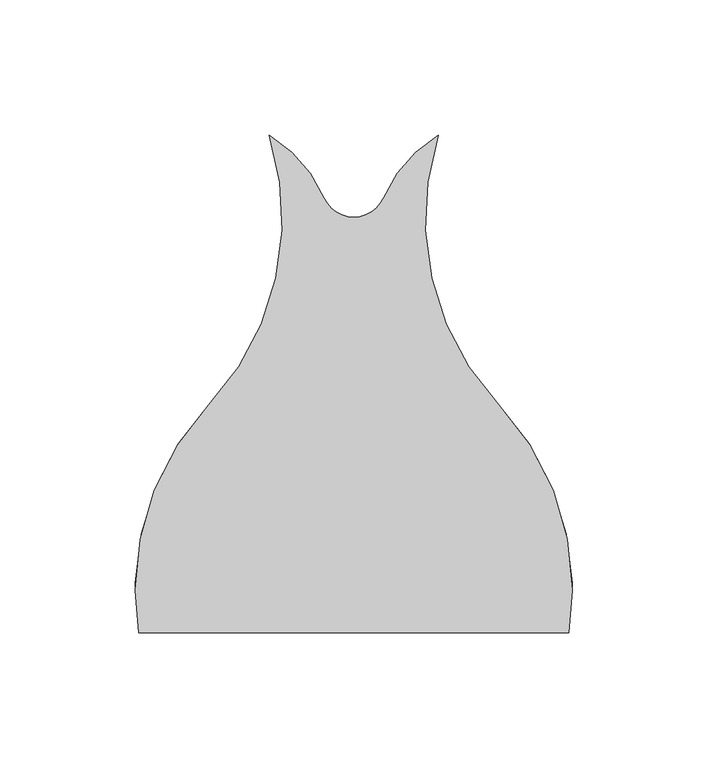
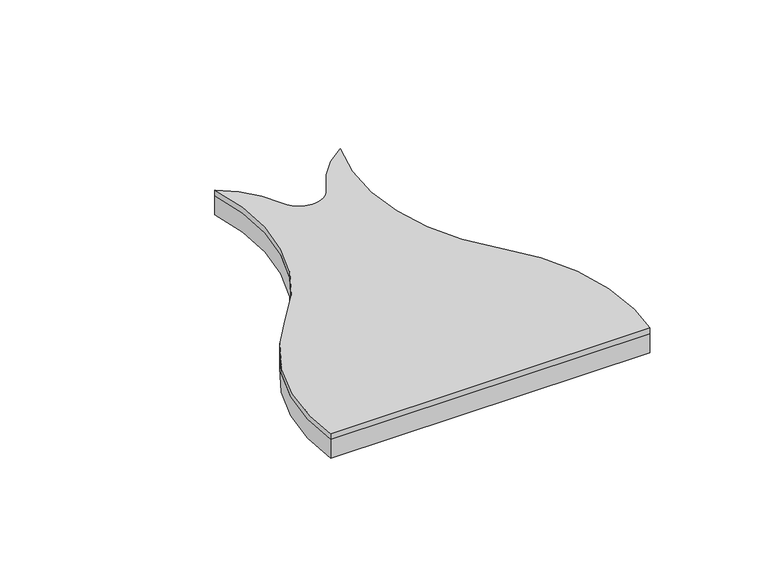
"""IFC4 building model written with IfcOpenShell, lengths in millimetres: proxy geometry, FilzFelt_Fish_Block : Fish Block."""

from ifc_helpers import new_model, si_unit, frame, origin, place, context, project, spatial, polyline, circle_curve, source, transform, mapped, element, save
from ifc_brep_helpers import plane_surface, cylinder_surface, revolved_surface, advanced_brep


def specialty_equipment_a03a52e0(model_context):
    return source(origin(), model_context, "Body", "AdvancedBrep", [
        advanced_brep(
        [(53.5486457, 68.6120133, 10.0210937), (79.4843468, -15.6533306, 10.0210937), (-79.4843468, -15.6533306, 10.0210937), (-53.5486457, 68.6120133, 10.0210937), (-31.2619065, 168.1141956, 10.0210937), (-11.0103348, 145.0347036, 10.0210937), (11.0103348, 145.0347036, 10.0210937), (31.2619065, 168.1141956, 10.0210937), (-53.5486457, 68.6120133, 12.9976563), (-80.7142226, 0.0, 12.9976563), (-79.4843468, -15.6533306, 12.9976563), (79.4843468, -15.6533306, 12.9976563), (80.7142226, 0.0, 12.9976563), (53.5486457, 68.6120133, 12.9976563), (31.2619065, 168.1141956, 12.9976563), (11.0103348, 145.0347036, 12.9976563), (-11.0103348, 145.0347036, 12.9976563), (-31.2619065, 168.1141956, 12.9976563)],
        [
            (0, 1, circle_curve(frame((-19.5151403, 0.0, 10.0210937), z_axis=(0.0, 0.0, -1.0), x_axis=(-1.0, 0.0, 0.0)), 100.2293629)),
            (1, 2),
            (2, 3, circle_curve(frame((19.5151403, 0.0, 10.0210937), z_axis=(0.0, 0.0, -1.0), x_axis=(-1.0, 0.0, 0.0)), 100.2293629)),
            (3, 4, circle_curve(frame((-126.6124317, 137.2240266, 10.0210937), z_axis=(0.0, 0.0, 1.0), x_axis=(-1.0, 0.0, 0.0)), 100.2293629)),
            (4, 5, circle_curve(frame((-57.9263497, 124.2921115, 10.0210937), z_axis=(0.0, 0.0, -1.0), x_axis=(-1.0, 0.0, 0.0)), 51.2968574)),
            (5, 6, circle_curve(frame((0.0, 149.9026124, 10.0210937), z_axis=(0.0, 0.0, 1.0), x_axis=(-1.0, 0.0, 0.0)), 12.0384388)),
            (6, 7, circle_curve(frame((57.9263497, 124.2921115, 10.0210937), z_axis=(0.0, 0.0, -1.0), x_axis=(-1.0, 0.0, 0.0)), 51.2968574)),
            (7, 0, circle_curve(frame((126.6124317, 137.2240266, 10.0210937), z_axis=(0.0, 0.0, 1.0), x_axis=(-1.0, 0.0, 0.0)), 100.2293629)),
            (8, 9, circle_curve(frame((19.5151403, 0.0, 12.9976563), z_axis=(0.0, 0.0, 1.0), x_axis=(-1.0, 0.0, 0.0)), 100.2293629)),
            (9, 10, circle_curve(frame((19.5151403, 0.0, 12.9976563), z_axis=(0.0, 0.0, 1.0), x_axis=(-1.0, 0.0, 0.0)), 100.2293629)),
            (10, 11),
            (11, 12, circle_curve(frame((-19.5151403, 0.0, 12.9976563), z_axis=(0.0, 0.0, 1.0), x_axis=(-1.0, 0.0, 0.0)), 100.2293629)),
            (12, 13, circle_curve(frame((-19.5151403, 0.0, 12.9976563), z_axis=(0.0, 0.0, 1.0), x_axis=(-1.0, 0.0, 0.0)), 100.2293629)),
            (13, 14, circle_curve(frame((126.6124317, 137.2240266, 12.9976563), z_axis=(0.0, 0.0, -1.0), x_axis=(-1.0, 0.0, 0.0)), 100.2293629)),
            (14, 15, circle_curve(frame((57.9263497, 124.2921115, 12.9976563), z_axis=(0.0, 0.0, 1.0), x_axis=(-1.0, 0.0, 0.0)), 51.2968574)),
            (15, 16, circle_curve(frame((0.0, 149.9026124, 12.9976563), z_axis=(0.0, 0.0, -1.0), x_axis=(-1.0, 0.0, 0.0)), 12.0384388)),
            (16, 17, circle_curve(frame((-57.9263497, 124.2921115, 12.9976563), z_axis=(0.0, 0.0, 1.0), x_axis=(-1.0, 0.0, 0.0)), 51.2968574)),
            (17, 8, circle_curve(frame((-126.6124317, 137.2240266, 12.9976563), z_axis=(0.0, 0.0, -1.0), x_axis=(-1.0, 0.0, 0.0)), 100.2293629)),
            (11, 1),
            (0, 13),
            (7, 14),
            (6, 15),
            (5, 16),
            (4, 17),
            (3, 8),
            (2, 10),
        ],
        [
            plane_surface(frame((0.0, 0.0, 10.0210937), z_axis=(0.0, 0.0, -1.0), x_axis=(0.0, 1.0, 0.0))),
            plane_surface(frame((0.0, 0.0, 12.9976563), z_axis=(0.0, 0.0, 1.0), x_axis=(0.0, 1.0, 0.0))),
            cylinder_surface(frame((-19.5151403, 0.0, 10.0210937), z_axis=(0.0, 0.0, -1.0), x_axis=(-1.0, 0.0, 0.0)), 100.2293629),
            revolved_surface(polyline([(26.383068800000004, 137.2240266, 12.9976563), (26.383068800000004, 137.2240266, 10.0210937)]), (126.6124317, 137.2240266, 10.0210937), (0.0, 0.0, 1.0)),
            cylinder_surface(frame((57.9263497, 124.2921115, 10.0210937), z_axis=(0.0, 0.0, -1.0), x_axis=(-1.0, 0.0, 0.0)), 51.2968574),
            revolved_surface(polyline([(-12.0384388, 149.9026124, 12.9976563), (-12.0384388, 149.9026124, 10.0210937)]), (0.0, 149.9026124, 10.0210937), (0.0, 0.0, 1.0)),
            cylinder_surface(frame((-57.9263497, 124.2921115, 10.0210937), z_axis=(0.0, 0.0, -1.0), x_axis=(-1.0, 0.0, 0.0)), 51.2968574),
            revolved_surface(polyline([(-226.84179460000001, 137.2240266, 12.9976563), (-226.84179460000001, 137.2240266, 10.0210937)]), (-126.6124317, 137.2240266, 10.0210937), (0.0, 0.0, 1.0)),
            cylinder_surface(frame((19.5151403, 0.0, 10.0210937), z_axis=(0.0, 0.0, -1.0), x_axis=(-1.0, 0.0, 0.0)), 100.2293629),
            plane_surface(frame((-112.4642226, -15.6533306, 12.9976562), z_axis=(0.0, -1.0, 0.0), x_axis=(-1.0, 0.0, 0.0))),
        ],
        [
            (0, [[1, 2, 3, 4, 5, 6, 7, 8]]),
            (1, [[9, 10, 11, 12, 13, 14, 15, 16, 17, 18]]),
            (2, [[-13, -12, 19, -1, 20]]),
            (3, [[21, -14, -20, -8]]),
            (4, [[22, -15, -21, -7]]),
            (5, [[23, -16, -22, -6]]),
            (6, [[24, -17, -23, -5]]),
            (7, [[25, -18, -24, -4]]),
            (8, [[-3, 26, -10, -9, -25]]),
            (9, [[-19, -11, -26, -2]]),
        ],
    ),
        advanced_brep(
        [(31.2619065, 168.1141956, 0.0), (53.5486457, 68.6120133, 0.0), (80.7142226, 0.0, 0.0), (79.4843468, -15.6533306, 0.0), (-79.4843468, -15.6533306, 0.0), (-80.7142226, 0.0, 0.0), (-53.5486457, 68.6120133, 0.0), (-31.2619065, 168.1141956, 0.0), (-11.0103348, 145.0347036, 0.0), (11.0103348, 145.0347036, 0.0), (31.2619065, 168.1141956, 10.0210937), (11.0103348, 145.0347036, 10.0210937), (-11.0103348, 145.0347036, 10.0210937), (-31.2619065, 168.1141956, 10.0210937), (-53.5486457, 68.6120133, 10.0210937), (-79.4843468, -15.6533306, 10.0210937), (79.4843468, -15.6533306, 10.0210937), (53.5486457, 68.6120133, 10.0210937)],
        [
            (0, 1, circle_curve(frame((126.6124317, 137.2240266, 0.0), z_axis=(0.0, 0.0, 1.0), x_axis=(-1.0, 0.0, 0.0)), 100.2293629)),
            (1, 2, circle_curve(frame((-19.5151403, 0.0, 0.0), z_axis=(0.0, 0.0, -1.0), x_axis=(-1.0, 0.0, 0.0)), 100.2293629)),
            (2, 3, circle_curve(frame((-19.5151403, 0.0, 0.0), z_axis=(0.0, 0.0, -1.0), x_axis=(-1.0, 0.0, 0.0)), 100.2293629)),
            (3, 4),
            (4, 5, circle_curve(frame((19.5151403, 0.0, 0.0), z_axis=(0.0, 0.0, -1.0), x_axis=(-1.0, 0.0, 0.0)), 100.2293629)),
            (5, 6, circle_curve(frame((19.5151403, 0.0, 0.0), z_axis=(0.0, 0.0, -1.0), x_axis=(-1.0, 0.0, 0.0)), 100.2293629)),
            (6, 7, circle_curve(frame((-126.6124317, 137.2240266, 0.0), z_axis=(0.0, 0.0, 1.0), x_axis=(-1.0, 0.0, 0.0)), 100.2293629)),
            (7, 8, circle_curve(frame((-57.9263497, 124.2921115, 0.0), z_axis=(0.0, 0.0, -1.0), x_axis=(-1.0, 0.0, 0.0)), 51.2968574)),
            (8, 9, circle_curve(frame((0.0, 149.9026124, 0.0), z_axis=(0.0, 0.0, 1.0), x_axis=(-1.0, 0.0, 0.0)), 12.0384388)),
            (9, 0, circle_curve(frame((57.9263497, 124.2921115, 0.0), z_axis=(0.0, 0.0, -1.0), x_axis=(-1.0, 0.0, 0.0)), 51.2968574)),
            (10, 11, circle_curve(frame((57.9263497, 124.2921115, 10.0210937), z_axis=(0.0, 0.0, 1.0), x_axis=(-1.0, 0.0, 0.0)), 51.2968574)),
            (11, 12, circle_curve(frame((0.0, 149.9026124, 10.0210937), z_axis=(0.0, 0.0, -1.0), x_axis=(-1.0, 0.0, 0.0)), 12.0384388)),
            (12, 13, circle_curve(frame((-57.9263497, 124.2921115, 10.0210937), z_axis=(0.0, 0.0, 1.0), x_axis=(-1.0, 0.0, 0.0)), 51.2968574)),
            (13, 14, circle_curve(frame((-126.6124317, 137.2240266, 10.0210937), z_axis=(0.0, 0.0, -1.0), x_axis=(-1.0, 0.0, 0.0)), 100.2293629)),
            (14, 15, circle_curve(frame((19.5151403, 0.0, 10.0210937), z_axis=(0.0, 0.0, 1.0), x_axis=(-1.0, 0.0, 0.0)), 100.2293629)),
            (15, 16),
            (16, 17, circle_curve(frame((-19.5151403, 0.0, 10.0210937), z_axis=(0.0, 0.0, 1.0), x_axis=(-1.0, 0.0, 0.0)), 100.2293629)),
            (17, 10, circle_curve(frame((126.6124317, 137.2240266, 10.0210937), z_axis=(0.0, 0.0, -1.0), x_axis=(-1.0, 0.0, 0.0)), 100.2293629)),
            (9, 11),
            (10, 0),
            (8, 12),
            (7, 13),
            (6, 14),
            (4, 15),
            (16, 3),
            (1, 17),
        ],
        [
            plane_surface(frame((0.0, 0.0, 0.0), z_axis=(0.0, 0.0, -1.0), x_axis=(0.0, 1.0, 0.0))),
            plane_surface(frame((0.0, 0.0, 10.0210937), z_axis=(0.0, 0.0, 1.0), x_axis=(0.0, 1.0, 0.0))),
            cylinder_surface(frame((57.9263497, 124.2921115, 0.0), z_axis=(0.0, 0.0, -1.0), x_axis=(-1.0, 0.0, 0.0)), 51.2968574),
            revolved_surface(polyline([(-12.0384388, 149.9026124, 10.0210937), (-12.0384388, 149.9026124, 0.0)]), (0.0, 149.9026124, 0.0), (0.0, 0.0, 1.0)),
            cylinder_surface(frame((-57.9263497, 124.2921115, 0.0), z_axis=(0.0, 0.0, -1.0), x_axis=(-1.0, 0.0, 0.0)), 51.2968574),
            revolved_surface(polyline([(-226.84179460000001, 137.2240266, 10.0210937), (-226.84179460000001, 137.2240266, 0.0)]), (-126.6124317, 137.2240266, 0.0), (0.0, 0.0, 1.0)),
            cylinder_surface(frame((19.5151403, 0.0, 0.0), z_axis=(0.0, 0.0, -1.0), x_axis=(-1.0, 0.0, 0.0)), 100.2293629),
            cylinder_surface(frame((-19.5151403, 0.0, 0.0), z_axis=(0.0, 0.0, -1.0), x_axis=(-1.0, 0.0, 0.0)), 100.2293629),
            revolved_surface(polyline([(26.383068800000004, 137.2240266, 10.0210937), (26.383068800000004, 137.2240266, 0.0)]), (126.6124317, 137.2240266, 0.0), (0.0, 0.0, 1.0)),
            plane_surface(frame((-112.4642226, -15.6533306, 12.9976562), z_axis=(0.0, -1.0, 0.0), x_axis=(-1.0, 0.0, 0.0))),
        ],
        [
            (0, [[1, 2, 3, 4, 5, 6, 7, 8, 9, 10]]),
            (1, [[11, 12, 13, 14, 15, 16, 17, 18]]),
            (2, [[19, -11, 20, -10]]),
            (3, [[21, -12, -19, -9]]),
            (4, [[22, -13, -21, -8]]),
            (5, [[23, -14, -22, -7]]),
            (6, [[-6, -5, 24, -15, -23]]),
            (7, [[-17, 25, -3, -2, 26]]),
            (8, [[-20, -18, -26, -1]]),
            (9, [[-25, -16, -24, -4]]),
        ],
    ),
    ])


if __name__ == "__main__":
    model = new_model("IFC4")
    model_context = context("Model", 3, world=origin())
    ifc_project = project(units=[si_unit("LENGTHUNIT", "METRE", prefix="MILLI")], contexts=[model_context])
    site = spatial("IfcSite", under=ifc_project)
    building = spatial("IfcBuilding", under=site)
    placement = place(None, origin())
    specialty_equipment_shape = specialty_equipment_a03a52e0(model_context)
    element("IfcBuildingElementProxy", 1, Name="FilzFelt_Fish_Block : Fish Block", ObjectType="FilzFelt_Fish_Block : Fish Block", at=placement, inside=building, context=model_context, shape_type="MappedRepresentation", body=[
        mapped(specialty_equipment_shape, transform((0.0, 0.0, 0.0), x_axis=(1.0, 0.0, 0.0), y_axis=(0.0, 1.0, 0.0), z_axis=(0.0, 0.0, 1.0))),
    ])
    save(model, "model.ifc")
